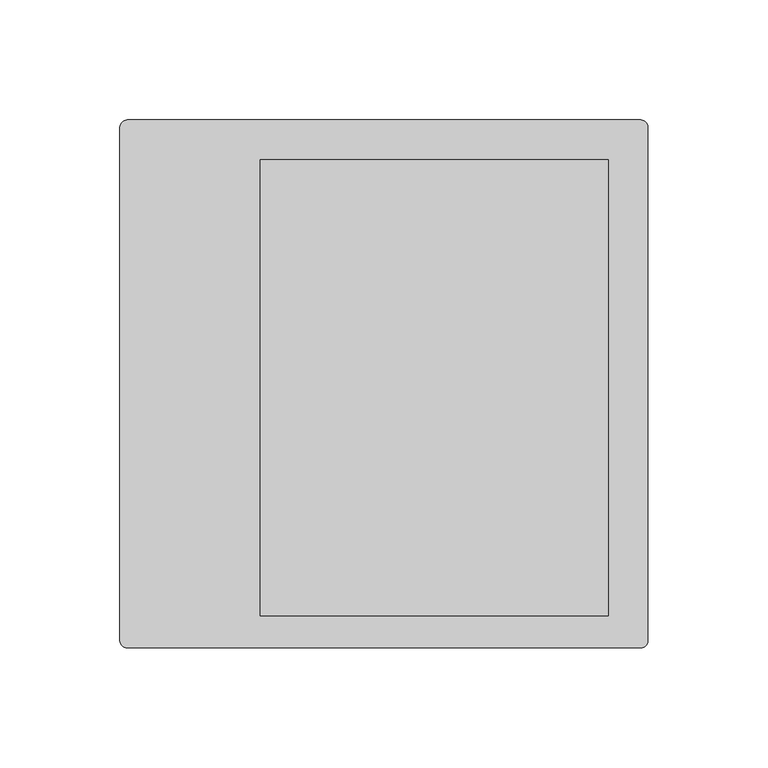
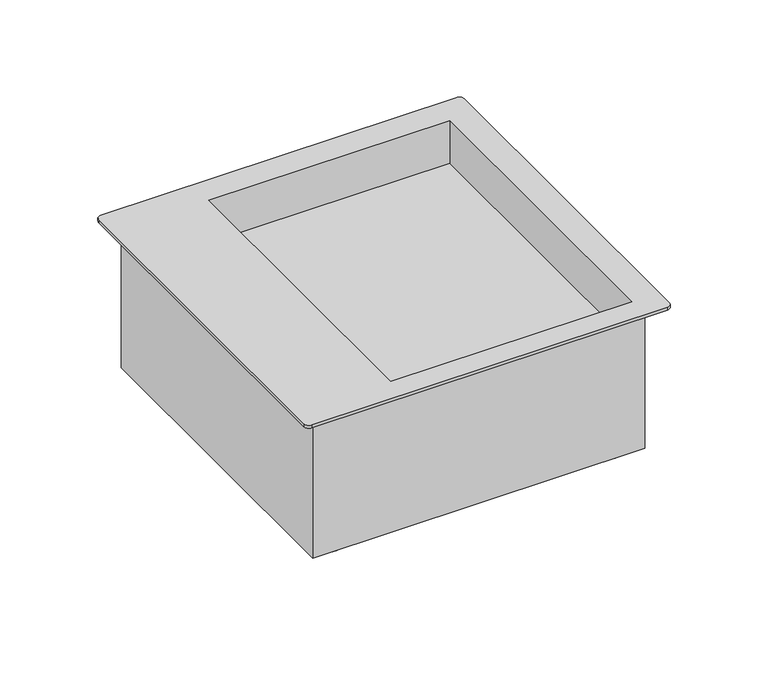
"""IFC4 building model written with IfcOpenShell, lengths in millimetres: proxy geometry, Electrical_Installation_Hager_VE-EE_Complete_underfloor_junction_box_package : Compl pack junct. box incl VQ06 deep black."""

from ifc_helpers import new_model, si_unit, frame, origin, place, context, project, spatial, circle_curve, source, transform, mapped, element, save
from ifc_brep_helpers import plane_surface, cylinder_surface, advanced_brep


def electrical_fixtures_7c2ed13a(model_context):
    return source(origin(), model_context, "Body", "AdvancedBrep", [
        advanced_brep(
        [(108.5, 111.5, 2.0), (-105.5, 111.5, 2.0), (-108.5, 108.5, 2.0), (-108.5, -105.5, 2.0), (-105.5, -108.5, 2.0), (108.5, -108.5, 2.0), (111.5, -105.5, 2.0), (111.5, 108.5, 2.0), (-50.1502423, -95.0, 2.0), (-50.1502423, 95.0, 2.0), (95.0, 95.0, 2.0), (95.0, -95.0, 2.0), (108.5, 111.5, 0.0), (111.5, 108.5, 0.0), (111.5, -105.5, 0.0), (108.5, -108.5, 0.0), (-105.5, -108.5, 0.0), (-108.5, -105.5, 0.0), (-108.5, 108.5, 0.0), (-105.5, 111.5, 0.0), (-100.0, -100.0, 0.0), (100.0, -100.0, 0.0), (100.0, 100.0, 0.0), (-100.0, 100.0, 0.0), (-50.1502423, -95.0, -25.0), (-50.1502423, 95.0, -25.0), (95.0, 95.0, -25.0), (95.0, -95.0, -25.0), (100.0, 100.0, -90.0), (100.0, -100.0, -90.0), (-100.0, -100.0, -90.0), (-100.0, 100.0, -90.0), (-93.5051574, 86.4657286, -90.0), (-73.5051574, 86.4657286, -90.0), (76.6301574, 86.4657286, -90.0), (96.6301574, 86.4657286, -90.0), (-93.5051574, -83.9657286, -90.0), (-73.5051574, -83.9657286, -90.0), (76.6301574, -83.9657286, -90.0), (96.6301574, -83.9657286, -90.0), (-93.5051574, 86.4657286, -95.0), (-73.5051574, 86.4657286, -95.0), (76.6301574, 86.4657286, -95.0), (96.6301574, 86.4657286, -95.0), (-93.5051574, -83.9657286, -95.0), (-73.5051574, -83.9657286, -95.0), (76.6301574, -83.9657286, -95.0), (96.6301574, -83.9657286, -95.0)],
        [
            (0, 1),
            (1, 2, circle_curve(frame((-105.5, 108.5, 2.0), z_axis=(0.0, 0.0, 1.0), x_axis=(1.0, 0.0, 0.0)), 3.0)),
            (2, 3),
            (3, 4, circle_curve(frame((-105.5, -105.5, 2.0), z_axis=(0.0, 0.0, 1.0), x_axis=(1.0, 0.0, 0.0)), 3.0)),
            (4, 5),
            (5, 6, circle_curve(frame((108.5, -105.5, 2.0), z_axis=(0.0, 0.0, 1.0), x_axis=(1.0, 0.0, 0.0)), 3.0)),
            (6, 7),
            (7, 0, circle_curve(frame((108.5, 108.5, 2.0), z_axis=(0.0, 0.0, 1.0), x_axis=(1.0, 0.0, 0.0)), 3.0)),
            (8, 9),
            (9, 10),
            (10, 11),
            (11, 8),
            (12, 13, circle_curve(frame((108.5, 108.5, 0.0), z_axis=(0.0, 0.0, -1.0), x_axis=(1.0, 0.0, 0.0)), 3.0)),
            (13, 14),
            (14, 15, circle_curve(frame((108.5, -105.5, 0.0), z_axis=(0.0, 0.0, -1.0), x_axis=(1.0, 0.0, 0.0)), 3.0)),
            (15, 16),
            (16, 17, circle_curve(frame((-105.5, -105.5, 0.0), z_axis=(0.0, 0.0, -1.0), x_axis=(1.0, 0.0, 0.0)), 3.0)),
            (17, 18),
            (18, 19, circle_curve(frame((-105.5, 108.5, 0.0), z_axis=(0.0, 0.0, -1.0), x_axis=(1.0, 0.0, 0.0)), 3.0)),
            (19, 12),
            (20, 21),
            (21, 22),
            (22, 23),
            (23, 20),
            (0, 12),
            (19, 1),
            (18, 2),
            (17, 3),
            (16, 4),
            (15, 5),
            (14, 6),
            (13, 7),
            (8, 24),
            (24, 25),
            (25, 9),
            (25, 26),
            (26, 10),
            (26, 27),
            (27, 11),
            (27, 24),
            (28, 29),
            (29, 30),
            (30, 31),
            (31, 28),
            (32, 33, circle_curve(frame((-83.5051574, 86.4657286, -90.0), z_axis=(0.0, 0.0, 1.0), x_axis=(1.0, 0.0, 0.0)), 10.0)),
            (33, 32, circle_curve(frame((-83.5051574, 86.4657286, -90.0), z_axis=(0.0, 0.0, 1.0), x_axis=(1.0, 0.0, 0.0)), 10.0)),
            (34, 35, circle_curve(frame((86.6301574, 86.4657286, -90.0), z_axis=(0.0, 0.0, 1.0), x_axis=(1.0, 0.0, 0.0)), 10.0)),
            (35, 34, circle_curve(frame((86.6301574, 86.4657286, -90.0), z_axis=(0.0, 0.0, 1.0), x_axis=(1.0, 0.0, 0.0)), 10.0)),
            (36, 37, circle_curve(frame((-83.5051574, -83.9657286, -90.0), z_axis=(0.0, 0.0, 1.0), x_axis=(1.0, 0.0, 0.0)), 10.0)),
            (37, 36, circle_curve(frame((-83.5051574, -83.9657286, -90.0), z_axis=(0.0, 0.0, 1.0), x_axis=(1.0, 0.0, 0.0)), 10.0)),
            (38, 39, circle_curve(frame((86.6301574, -83.9657286, -90.0), z_axis=(0.0, 0.0, 1.0), x_axis=(1.0, 0.0, 0.0)), 10.0)),
            (39, 38, circle_curve(frame((86.6301574, -83.9657286, -90.0), z_axis=(0.0, 0.0, 1.0), x_axis=(1.0, 0.0, 0.0)), 10.0)),
            (31, 23),
            (22, 28),
            (30, 20),
            (29, 21),
            (40, 41, circle_curve(frame((-83.5051574, 86.4657286, -95.0), z_axis=(0.0, 0.0, -1.0), x_axis=(1.0, 0.0, 0.0)), 10.0)),
            (41, 40, circle_curve(frame((-83.5051574, 86.4657286, -95.0), z_axis=(0.0, 0.0, -1.0), x_axis=(1.0, 0.0, 0.0)), 10.0)),
            (42, 43, circle_curve(frame((86.6301574, 86.4657286, -95.0), z_axis=(0.0, 0.0, -1.0), x_axis=(1.0, 0.0, 0.0)), 10.0)),
            (43, 42, circle_curve(frame((86.6301574, 86.4657286, -95.0), z_axis=(0.0, 0.0, -1.0), x_axis=(1.0, 0.0, 0.0)), 10.0)),
            (44, 45, circle_curve(frame((-83.5051574, -83.9657286, -95.0), z_axis=(0.0, 0.0, -1.0), x_axis=(1.0, 0.0, 0.0)), 10.0)),
            (45, 44, circle_curve(frame((-83.5051574, -83.9657286, -95.0), z_axis=(0.0, 0.0, -1.0), x_axis=(1.0, 0.0, 0.0)), 10.0)),
            (46, 47, circle_curve(frame((86.6301574, -83.9657286, -95.0), z_axis=(0.0, 0.0, -1.0), x_axis=(1.0, 0.0, 0.0)), 10.0)),
            (47, 46, circle_curve(frame((86.6301574, -83.9657286, -95.0), z_axis=(0.0, 0.0, -1.0), x_axis=(1.0, 0.0, 0.0)), 10.0)),
            (41, 33),
            (32, 40),
            (43, 35),
            (34, 42),
            (45, 37),
            (36, 44),
            (47, 39),
            (38, 46),
        ],
        [
            plane_surface(frame((-105.5, 111.5, 2.0), z_axis=(0.0, 0.0, 1.0), x_axis=(-1.0, 0.0, 0.0))),
            plane_surface(frame((-105.5, 111.5, 0.0), z_axis=(0.0, 0.0, -1.0), x_axis=(1.0, 0.0, 0.0))),
            plane_surface(frame((108.5, 111.5, 2.0), z_axis=(0.0, 1.0, 0.0), x_axis=(0.0, 0.0, -1.0))),
            cylinder_surface(frame((-105.5, 108.5, 0.0), z_axis=(0.0, 0.0, 1.0), x_axis=(1.0, 0.0, 0.0)), 3.0),
            plane_surface(frame((-108.5, 108.5, 2.0), z_axis=(-1.0, 0.0, 0.0), x_axis=(0.0, 0.0, -1.0))),
            cylinder_surface(frame((-105.5, -105.5, 0.0), z_axis=(0.0, 0.0, 1.0), x_axis=(1.0, 0.0, 0.0)), 3.0),
            plane_surface(frame((-105.5, -108.5, 2.0), z_axis=(0.0, -1.0, 0.0), x_axis=(0.0, 0.0, -1.0))),
            cylinder_surface(frame((108.5, -105.5, 0.0), z_axis=(0.0, 0.0, 1.0), x_axis=(1.0, 0.0, 0.0)), 3.0),
            plane_surface(frame((111.5, -105.5, 2.0), z_axis=(1.0, 0.0, 0.0), x_axis=(0.0, 0.0, -1.0))),
            cylinder_surface(frame((108.5, 108.5, 0.0), z_axis=(0.0, 0.0, 1.0), x_axis=(1.0, 0.0, 0.0)), 3.0),
            plane_surface(frame((-50.1502423, -95.0, 2.0), z_axis=(1.0, 0.0, 0.0), x_axis=(0.0, 0.0, -1.0))),
            plane_surface(frame((-50.1502423, 95.0, 2.0), z_axis=(0.0, -1.0, 0.0), x_axis=(0.0, 0.0, -1.0))),
            plane_surface(frame((95.0, 95.0, 2.0), z_axis=(-1.0, 0.0, 0.0), x_axis=(0.0, 0.0, -1.0))),
            plane_surface(frame((95.0, -95.0, 2.0), z_axis=(0.0, 1.0, 0.0), x_axis=(0.0, 0.0, -1.0))),
            plane_surface(frame((-545.5769887, 100.0, -25.0), z_axis=(0.0, 0.0, 1.0), x_axis=(-1.0, 0.0, 0.0))),
            plane_surface(frame((-545.5769887, 100.0, -90.0), z_axis=(0.0, 0.0, -1.0), x_axis=(1.0, 0.0, 0.0))),
            plane_surface(frame((100.0, 100.0, -25.0), z_axis=(0.0, 1.0, 0.0), x_axis=(0.0, 0.0, -1.0))),
            plane_surface(frame((-100.0, 100.0, -25.0), z_axis=(-1.0, 0.0, 0.0), x_axis=(0.0, 0.0, -1.0))),
            plane_surface(frame((-100.0, -100.0, -25.0), z_axis=(0.0, -1.0, 0.0), x_axis=(0.0, 0.0, -1.0))),
            plane_surface(frame((100.0, -100.0, -25.0), z_axis=(1.0, 0.0, 0.0), x_axis=(0.0, 0.0, -1.0))),
            plane_surface(frame((-73.5051574, 86.4657286, -95.0), z_axis=(0.0, 0.0, -1.0), x_axis=(0.0, -1.0, 0.0))),
            cylinder_surface(frame((-83.5051574, 86.4657286, -95.0), z_axis=(0.0, 0.0, 1.0), x_axis=(1.0, 0.0, 0.0)), 10.0),
            cylinder_surface(frame((86.6301574, 86.4657286, 0.0), z_axis=(0.0, 0.0, 1.0), x_axis=(1.0, 0.0, 0.0)), 10.0),
            cylinder_surface(frame((-83.5051574, -83.9657286, 0.0), z_axis=(0.0, 0.0, 1.0), x_axis=(1.0, 0.0, 0.0)), 10.0),
            cylinder_surface(frame((86.6301574, -83.9657286, 0.0), z_axis=(0.0, 0.0, 1.0), x_axis=(1.0, 0.0, 0.0)), 10.0),
        ],
        [
            (0, [[1, 2, 3, 4, 5, 6, 7, 8], [9, 10, 11, 12]]),
            (1, [[13, 14, 15, 16, 17, 18, 19, 20], [21, 22, 23, 24]]),
            (2, [[-1, 25, -20, 26]]),
            (3, [[-2, -26, -19, 27]]),
            (4, [[-3, -27, -18, 28]]),
            (5, [[-4, -28, -17, 29]]),
            (6, [[-5, -29, -16, 30]]),
            (7, [[-6, -30, -15, 31]]),
            (8, [[-7, -31, -14, 32]]),
            (9, [[-8, -32, -13, -25]]),
            (10, [[-9, 33, 34, 35]]),
            (11, [[-10, -35, 36, 37]]),
            (12, [[-11, -37, 38, 39]]),
            (13, [[-12, -39, 40, -33]]),
            (14, [[-34, -40, -38, -36]]),
            (15, [[41, 42, 43, 44], [45, 46], [47, 48], [49, 50], [51, 52]]),
            (16, [[-44, 53, -23, 54]]),
            (17, [[-53, -43, 55, -24]]),
            (18, [[-55, -42, 56, -21]]),
            (19, [[-56, -41, -54, -22]]),
            (20, [[57, 58]]),
            (20, [[59, 60]]),
            (20, [[61, 62]]),
            (20, [[63, 64]]),
            (21, [[-58, 65, -45, 66]]),
            (21, [[-57, -66, -46, -65]]),
            (22, [[-60, 67, -47, 68]]),
            (22, [[-59, -68, -48, -67]]),
            (23, [[-62, 69, -49, 70]]),
            (23, [[-61, -70, -50, -69]]),
            (24, [[-64, 71, -51, 72]]),
            (24, [[-63, -72, -52, -71]]),
        ],
    ),
    ])


if __name__ == "__main__":
    model = new_model("IFC4")
    model_context = context("Model", 3, world=origin())
    ifc_project = project(units=[si_unit("LENGTHUNIT", "METRE", prefix="MILLI")], contexts=[model_context])
    site = spatial("IfcSite", under=ifc_project)
    building = spatial("IfcBuilding", under=site)
    placement = place(None, origin())
    electrical_fixtures_shape = electrical_fixtures_7c2ed13a(model_context)
    element("IfcBuildingElementProxy", 1, Name="Electrical_Installation_Hager_VE-EE_Complete_underfloor_junction_box_package : Compl pack junct. box incl VQ06 deep black", ObjectType="Electrical_Installation_Hager_VE-EE_Complete_underfloor_junction_box_package : Compl pack junct. box incl VQ06 deep black", at=placement, inside=building, context=model_context, shape_type="MappedRepresentation", body=[
        mapped(electrical_fixtures_shape, transform((0.0, 0.0, 0.0), x_axis=(1.0, 0.0, 0.0), y_axis=(0.0, 1.0, 0.0), z_axis=(0.0, 0.0, 1.0))),
    ])
    save(model, "model.ifc")
